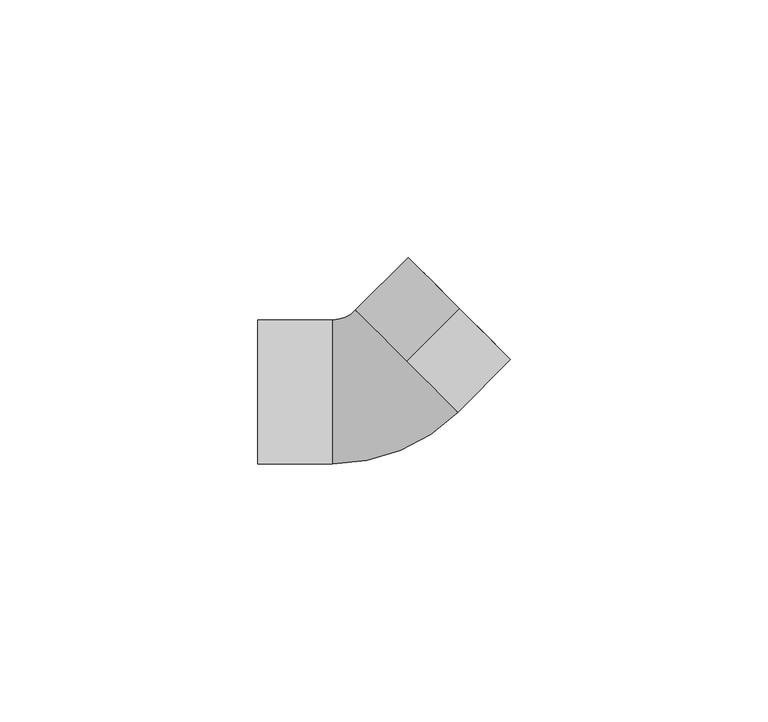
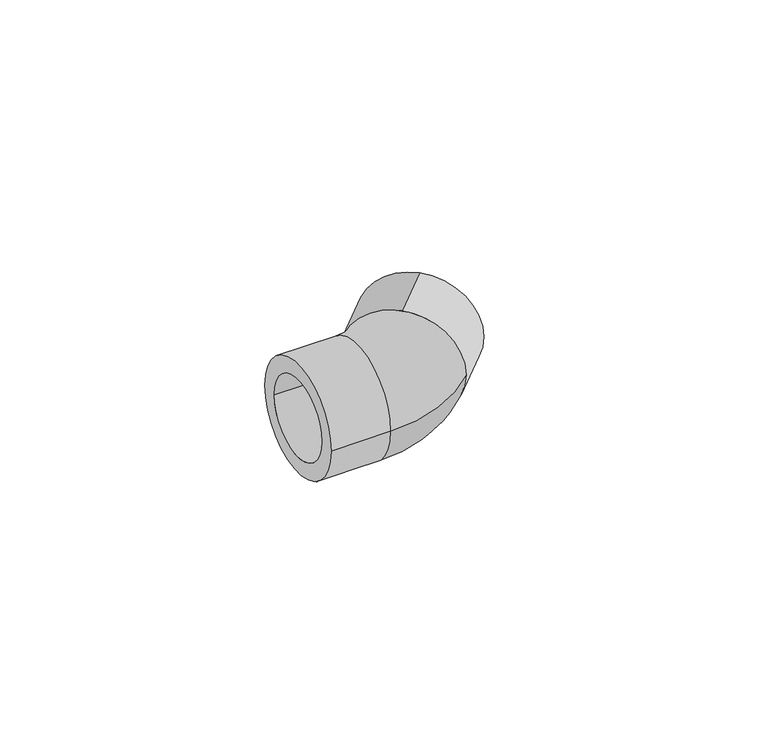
"""IFC4 building model written with IfcOpenShell, lengths in millimetres: pipe fitting geometry, 34_Угольник полипропиленовый 45 : Белый цвет."""

from ifc_helpers import new_model, si_unit, point, frame, origin, place, context, project, spatial, polyline, circle_curve, ellipse_curve, trimmed, source, transform, mapped, element, save
from ifc_brep_helpers import plane_surface, cylinder_surface, revolved_surface, advanced_brep


def pipe_fitting_82489efc(model_context):
    return source(origin(), model_context, "Body", "AdvancedBrep", [
        advanced_brep(
        [(-22.929246, -14.0, 0.0), (-22.929246, 14.0, 0.0), (-22.929246, -10.0, 0.0), (-22.929246, 10.0, 0.0), (-8.429246, 14.0, 0.0), (-8.429246, -14.0, 0.0), (-8.429246, 10.0, 0.0), (-8.429246, -10.0, 0.0), (-8.429246, -8.5, 0.0), (-8.429246, 8.5, 0.0), (5.960377, 5.960377, 10.0), (5.960377, 5.960377, -10.0), (11.9707846, -0.0500306, 0.0), (-0.0500306, 11.9707846, 0.0), (-3.9391179, 15.8598719, 0.0), (15.8598719, -3.9391179, 0.0), (5.960377, 5.960377, 14.0), (5.960377, 5.960377, -14.0), (16.2134253, 16.2134253, -14.0), (16.2134253, 16.2134253, 14.0), (16.2134253, 16.2134253, -10.0), (16.2134253, 16.2134253, 10.0)],
        [
            (0, 1, circle_curve(frame((-22.929246, 0.0, 0.0), z_axis=(-1.0, 0.0, 0.0), x_axis=(0.0, 1.0, 0.0)), 14.0)),
            (1, 0, circle_curve(frame((-22.929246, 0.0, 0.0), z_axis=(-1.0, 0.0, 0.0), x_axis=(0.0, 1.0, 0.0)), 14.0)),
            (2, 3, circle_curve(frame((-22.929246, 0.0, 0.0), z_axis=(1.0, 0.0, 0.0), x_axis=(0.0, 1.0, 0.0)), 10.0)),
            (3, 2, circle_curve(frame((-22.929246, 0.0, 0.0), z_axis=(1.0, 0.0, 0.0), x_axis=(0.0, 1.0, 0.0)), 10.0)),
            (1, 4),
            (4, 5, circle_curve(frame((-8.429246, 0.0, 0.0), z_axis=(-1.0, 0.0, 0.0), x_axis=(0.0, 1.0, 0.0)), 14.0)),
            (5, 0),
            (5, 4, circle_curve(frame((-8.429246, 0.0, 0.0), z_axis=(-1.0, 0.0, 0.0), x_axis=(0.0, 1.0, 0.0)), 14.0)),
            (3, 6),
            (6, 7, circle_curve(frame((-8.429246, 0.0, 0.0), z_axis=(1.0, 0.0, 0.0), x_axis=(0.0, 1.0, 0.0)), 10.0)),
            (7, 2),
            (7, 6, circle_curve(frame((-8.429246, 0.0, 0.0), z_axis=(1.0, 0.0, 0.0), x_axis=(0.0, 1.0, 0.0)), 10.0)),
            (8, 9, circle_curve(frame((-8.429246, 0.0, 0.0), z_axis=(1.0, 0.0, 0.0), x_axis=(0.0, 1.0, 0.0)), 8.5)),
            (9, 8, circle_curve(frame((-8.429246, 0.0, 0.0), z_axis=(1.0, 0.0, 0.0), x_axis=(0.0, 1.0, 0.0)), 8.5)),
            (10, 11, circle_curve(frame((5.960377, 5.960377, 0.0), z_axis=(0.707106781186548, 0.707106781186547, 0.0), x_axis=(0.0, 0.0, 1.0)), 10.0)),
            (11, 10, circle_curve(frame((5.960377, 5.960377, 0.0), z_axis=(0.707106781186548, 0.707106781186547, 0.0), x_axis=(0.0, 0.0, 1.0)), 10.0)),
            (12, 13, circle_curve(frame((5.960377, 5.960377, 0.0), z_axis=(-0.7071067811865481, -0.7071067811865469, 0.0), x_axis=(-0.7071067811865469, 0.7071067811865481, 0.0)), 8.5)),
            (13, 12, circle_curve(frame((5.960377, 5.960377, 0.0), z_axis=(-0.7071067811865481, -0.7071067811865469, 0.0), x_axis=(-0.7071067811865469, 0.7071067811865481, 0.0)), 8.5)),
            (14, 4, circle_curve(frame((-8.429246, 20.35, 0.0), z_axis=(0.0, 0.0, -1.0), x_axis=(0.0, -1.0, 0.0)), 6.35)),
            (5, 15, circle_curve(frame((-8.429246, 20.35, 0.0), z_axis=(0.0, 0.0, 1.0), x_axis=(0.0, -1.0, 0.0)), 34.35)),
            (15, 16, circle_curve(frame((5.960377, 5.960377, 0.0), z_axis=(-0.7071067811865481, -0.7071067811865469, 0.0), x_axis=(-0.7071067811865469, 0.7071067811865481, 0.0)), 14.0)),
            (16, 14, circle_curve(frame((5.960377, 5.960377, 0.0), z_axis=(-0.7071067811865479, -0.7071067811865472, 0.0), x_axis=(-0.7071067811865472, 0.7071067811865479, 0.0)), 14.0)),
            (14, 17, circle_curve(frame((5.960377, 5.960377, 0.0), z_axis=(-0.7071067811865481, -0.7071067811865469, 0.0), x_axis=(-0.7071067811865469, 0.7071067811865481, 0.0)), 14.0)),
            (17, 15, circle_curve(frame((5.960377, 5.960377, 0.0), z_axis=(-0.7071067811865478, -0.7071067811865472, 0.0), x_axis=(-0.7071067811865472, 0.7071067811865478, 0.0)), 14.0)),
            (8, 12, circle_curve(frame((-8.429246, 20.35, 0.0), z_axis=(0.0, 0.0, 1.0), x_axis=(0.0, -1.0, 0.0)), 28.85)),
            (13, 9, circle_curve(frame((-8.429246, 20.35, 0.0), z_axis=(0.0, 0.0, -1.0), x_axis=(0.0, -1.0, 0.0)), 11.85)),
            (18, 19, circle_curve(frame((16.2134253, 16.2134253, 0.0), z_axis=(0.707106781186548, 0.707106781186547, 0.0), x_axis=(0.0, 0.0, 1.0)), 14.0)),
            (19, 18, circle_curve(frame((16.2134253, 16.2134253, 0.0), z_axis=(0.707106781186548, 0.707106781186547, 0.0), x_axis=(0.0, 0.0, 1.0)), 14.0)),
            (20, 21, circle_curve(frame((16.2134253, 16.2134253, 0.0), z_axis=(-0.707106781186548, -0.707106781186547, 0.0), x_axis=(0.0, 0.0, 1.0)), 10.0)),
            (21, 20, circle_curve(frame((16.2134253, 16.2134253, 0.0), z_axis=(-0.707106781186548, -0.707106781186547, 0.0), x_axis=(0.0, 0.0, 1.0)), 10.0)),
            (18, 17),
            (16, 19),
            (20, 11),
            (10, 21),
        ],
        [
            plane_surface(frame((-22.929246, 14.0, 0.0), z_axis=(-1.0, 0.0, 0.0), x_axis=(0.0, 0.0, -1.0))),
            cylinder_surface(frame((-22.929246, 0.0, 0.0), z_axis=(1.0, 0.0, 0.0), x_axis=(0.0, 1.0, 0.0)), 14.0),
            revolved_surface(polyline([(-22.929246, 10.0, 0.0), (-8.429246, 10.0, 0.0)]), (0.0, 0.0, 0.0), (-1.0, 0.0, 0.0)),
            plane_surface(frame((-8.429246, 0.0, 0.0), z_axis=(-1.0, 0.0, 0.0), x_axis=(0.0, 0.0, 1.0))),
            plane_surface(frame((5.960377, 5.960377, 0.0), z_axis=(0.707106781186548, 0.707106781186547, 0.0), x_axis=(0.0, 0.0, 1.0))),
            revolved_surface(trimmed(ellipse_curve(frame((-8.429246, 0.0, 0.0), z_axis=(-1.0, 0.0, 0.0), x_axis=(0.0, 1.0, 0.0)), 14.0, 14.0), [point((-8.429246, -14.0, 0.0))], [point((-8.429246, 14.0, 0.0))], True, "CARTESIAN"), (-8.429246, 20.35, 0.0), (0.0, 0.0, 1.0)),
            revolved_surface(trimmed(ellipse_curve(frame((-8.429246, 0.0, 0.0), z_axis=(-1.0, 0.0, 0.0), x_axis=(0.0, 1.0, 0.0)), 14.0, 14.0), [point((-8.429246, 14.0, 0.0))], [point((-8.429246, -14.0, 0.0))], True, "CARTESIAN"), (-8.429246, 20.35, 0.0), (0.0, 0.0, 1.0)),
            revolved_surface(trimmed(ellipse_curve(frame((-8.429246, 0.0, 0.0), z_axis=(1.0, 0.0, 0.0), x_axis=(0.0, 1.0, 0.0)), 8.5, 8.5), [point((-8.429246, -8.5, 0.0))], [point((-8.429246, 8.5, 0.0))], True, "CARTESIAN"), (-8.429246, 20.35, 0.0), (0.0, 0.0, 1.0)),
            revolved_surface(trimmed(ellipse_curve(frame((-8.429246, 0.0, 0.0), z_axis=(1.0, 0.0, 0.0), x_axis=(0.0, 1.0, 0.0)), 8.5, 8.5), [point((-8.429246, 8.5, 0.0))], [point((-8.429246, -8.5, 0.0))], True, "CARTESIAN"), (-8.429246, 20.35, 0.0), (0.0, 0.0, 1.0)),
            plane_surface(frame((16.2134253, 16.2134253, 14.0), z_axis=(0.7071067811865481, 0.707106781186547, 0.0), x_axis=(0.707106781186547, -0.7071067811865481, 0.0))),
            cylinder_surface(frame((5.960377, 5.960377, 0.0), z_axis=(0.707106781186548, 0.707106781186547, 0.0), x_axis=(0.0, 0.0, 1.0)), 14.0),
            revolved_surface(polyline([(5.960377, 5.960377, 10.0), (16.213425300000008, 16.213425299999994, 10.0)]), (5.960377, 5.960377, 0.0), (-0.707106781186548, -0.707106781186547, 0.0)),
        ],
        [
            (0, [[1, 2], [3, 4]]),
            (1, [[-2, 5, 6, 7]]),
            (1, [[-1, -7, 8, -5]]),
            (2, [[-4, 9, 10, 11]]),
            (2, [[-3, -11, 12, -9]]),
            (3, [[-10, -12], [13, 14]]),
            (4, [[15, 16], [17, 18]]),
            (5, [[19, -8, 20, 21, 22]]),
            (6, [[-19, 23, 24, -20, -6]]),
            (7, [[-13, 25, -18, 26]]),
            (8, [[-14, -26, -17, -25]]),
            (9, [[27, 28], [29, 30]]),
            (10, [[-27, 31, -23, -22, 32]]),
            (10, [[-28, -32, -21, -24, -31]]),
            (11, [[-29, 33, -15, 34]]),
            (11, [[-30, -34, -16, -33]]),
        ],
    ),
    ])


if __name__ == "__main__":
    model = new_model("IFC4")
    model_context = context("Model", 3, world=origin())
    ifc_project = project(units=[si_unit("LENGTHUNIT", "METRE", prefix="MILLI")], contexts=[model_context])
    site = spatial("IfcSite", under=ifc_project)
    building = spatial("IfcBuilding", under=site)
    placement = place(None, origin())
    pipe_fitting_shape = pipe_fitting_82489efc(model_context)
    element("IfcPipeFitting", 1, ObjectType="34_Угольник полипропиленовый 45 : Белый цвет", at=placement, inside=building, context=model_context, shape_type="MappedRepresentation", body=[
        mapped(pipe_fitting_shape, transform((0.0, 0.0, 0.0), x_axis=(1.0, 0.0, 0.0), y_axis=(0.0, 1.0, 0.0), z_axis=(0.0, 0.0, 1.0))),
    ])
    save(model, "model.ifc")
